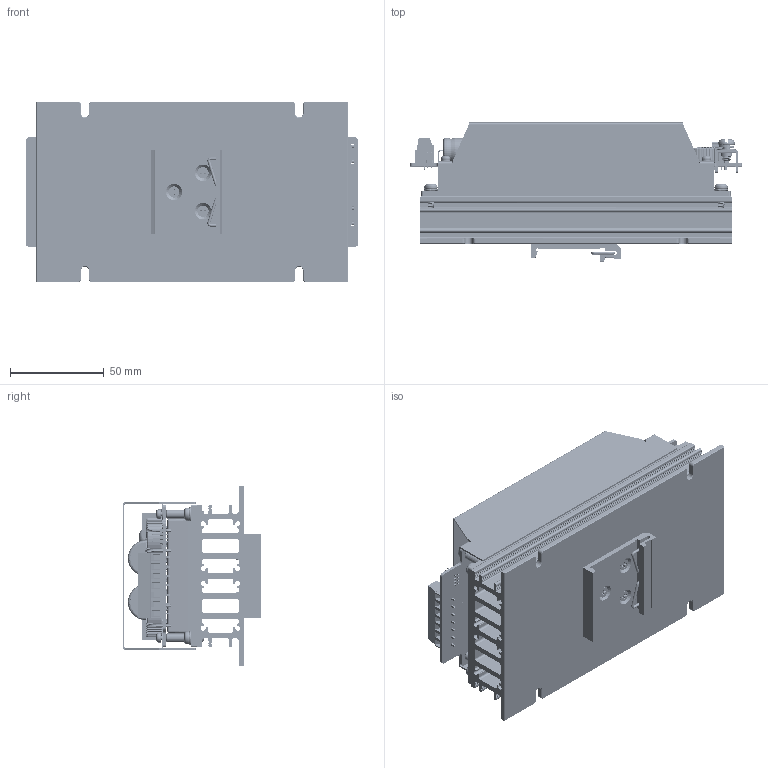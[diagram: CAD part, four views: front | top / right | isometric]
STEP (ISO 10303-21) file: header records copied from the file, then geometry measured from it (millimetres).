
FILE_DESCRIPTION (( 'STEP AP203' ), '1' );
FILE_NAME ('CHB200W12-72S CMFD HD成品圖2024.04.30.STEP', '2024-04-30T05:45:18', ( '' ), ( '' ), 'SwSTEP 2.0', 'SolidWorks 2020', '' );
FILE_SCHEMA (( 'CONFIG_CONTROL_DESIGN' ));
Products named in the file (1): CHB200W12-72S CMFD HD成品圖2024.04.30
Bounding box: 177.16 x 74.1 x 96.52 mm (x, y, z)
Volume: 331975.7 mm3; surface area: 219886.4 mm2
Topology: 36 solids, 50 shells, 4579 faces, 12488 edges, 8000 vertices
Faces by surface type: plane 1878, cylinder 1457, torus 786, bspline 304, cone 147, sphere 7
Full cylindrical faces by diameter (mm): 0.6 x12, 0.7 x2, 0.8 x80, 1 x10, 1.2 x14, 1.4 x7, 1.5 x6, 2 x12, 2.2 x12, 2.7 x2, 3.2 x12, 3.25 x1, 3.5 x4, 3.8 x9, 3.9 x24, 4 x7, 4.2 x3, 4.3 x8, 4.45 x4, 4.5 x4, 4.6 x4, 4.7 x12, 5 x10, 6 x5, 7 x4, 8 x3, 8.8 x2, 9.8 x2, 12 x4, 12.6 x2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
Entity records: 235868 total; most frequent: CARTESIAN_POINT 130353, ORIENTED_EDGE 23406, DIRECTION 19548, EDGE_CURVE 11703, VERTEX_POINT 7754, AXIS2_PLACEMENT_3D 7242, EDGE_LOOP 5461, LINE 5064
